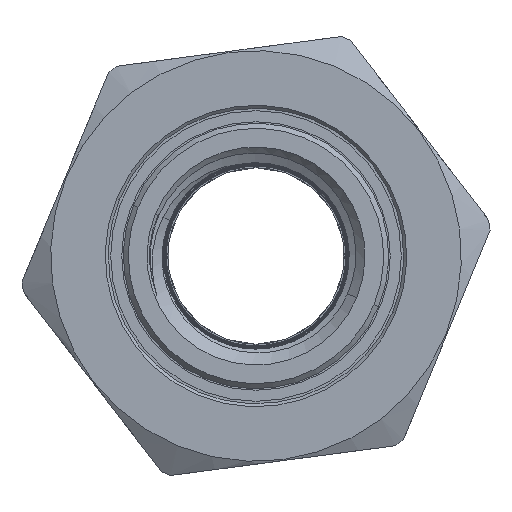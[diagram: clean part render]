
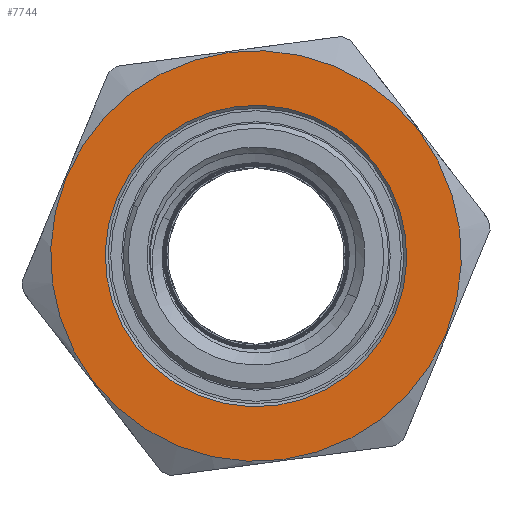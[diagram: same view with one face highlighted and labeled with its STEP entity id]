
A CAD part, left-side view. The second image highlights one B-rep face of the part: STEP entity #7744.
In plain terms, the highlighted planar face has unit normal (-1, 0, 0) as drawn and (1, 0, 0) by its records, which use the part's own axes.
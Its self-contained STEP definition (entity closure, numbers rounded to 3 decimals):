
#658 = ORIENTED_EDGE ( 'NONE', *, *, #764, .F. ) ;
#666 = ORIENTED_EDGE ( 'NONE', *, *, #9762, .F. ) ;
#669 = ORIENTED_EDGE ( 'NONE', *, *, #9780, .T. ) ;
#672 = EDGE_LOOP ( 'NONE', ( #669, #680 ) ) ;
#674 = EDGE_LOOP ( 'NONE', ( #666, #658 ) ) ;
#680 = ORIENTED_EDGE ( 'NONE', *, *, #790, .T. ) ;
#764 = EDGE_CURVE ( 'NONE', #5315, #5335, #7253, .T. ) ;
#790 = EDGE_CURVE ( 'NONE', #5356, #5347, #7243, .T. ) ;
#2399 = DIRECTION ( 'NONE',  ( 0., 0., 1. ) ) ;
#2420 = CARTESIAN_POINT ( 'NONE',  ( 11., 0., 0. ) ) ;
#2423 = DIRECTION ( 'NONE',  ( -1., 0., 0. ) ) ;
#2552 = DIRECTION ( 'NONE',  ( 0., 0., 1. ) ) ;
#2567 = CARTESIAN_POINT ( 'NONE',  ( 11., 0., 0. ) ) ;
#2582 = DIRECTION ( 'NONE',  ( -1., 0., 0. ) ) ;
#4733 = CARTESIAN_POINT ( 'NONE',  ( 11., 0., 0. ) ) ;
#4736 = DIRECTION ( 'NONE',  ( 0., 0., 1. ) ) ;
#4737 = DIRECTION ( 'NONE',  ( -1., 0., 0. ) ) ;
#5173 = DIRECTION ( 'NONE',  ( -1., 0., 0. ) ) ;
#5177 = DIRECTION ( 'NONE',  ( 0., 0., 1. ) ) ;
#5200 = CARTESIAN_POINT ( 'NONE',  ( 11., 0., 0. ) ) ;
#5315 = VERTEX_POINT ( 'NONE', #12500 ) ;
#5335 = VERTEX_POINT ( 'NONE', #12530 ) ;
#5347 = VERTEX_POINT ( 'NONE', #12529 ) ;
#5356 = VERTEX_POINT ( 'NONE', #12539 ) ;
#6013 = AXIS2_PLACEMENT_3D ( 'NONE', #4733, #4737, #4736 ) ;
#6017 = AXIS2_PLACEMENT_3D ( 'NONE', #5200, #5173, #5177 ) ;
#6146 = AXIS2_PLACEMENT_3D ( 'NONE', #9302, #9309, #9297 ) ;
#6199 = AXIS2_PLACEMENT_3D ( 'NONE', #2420, #2423, #2399 ) ;
#6228 = AXIS2_PLACEMENT_3D ( 'NONE', #2567, #2582, #2552 ) ;
#7243 = CIRCLE ( 'NONE', #6017, 15.05 ) ;
#7253 = CIRCLE ( 'NONE', #6013, 20.5 ) ;
#7744 = ADVANCED_FACE ( 'NONE', ( #13366, #13375 ), #9327, .F. ) ;
#9094 = CIRCLE ( 'NONE', #6228, 15.05 ) ;
#9297 = DIRECTION ( 'NONE',  ( 0., 0., 1. ) ) ;
#9302 = CARTESIAN_POINT ( 'NONE',  ( 11., 14.75, 0. ) ) ;
#9309 = DIRECTION ( 'NONE',  ( -1., 0., 0. ) ) ;
#9327 = PLANE ( 'NONE',  #6146 ) ;
#9762 = EDGE_CURVE ( 'NONE', #5335, #5315, #13441, .T. ) ;
#9780 = EDGE_CURVE ( 'NONE', #5347, #5356, #9094, .T. ) ;
#12500 = CARTESIAN_POINT ( 'NONE',  ( 11., 0., -20.5 ) ) ;
#12529 = CARTESIAN_POINT ( 'NONE',  ( 11., 0., -15.05 ) ) ;
#12530 = CARTESIAN_POINT ( 'NONE',  ( 11., 0., 20.5 ) ) ;
#12539 = CARTESIAN_POINT ( 'NONE',  ( 11., 0., 15.05 ) ) ;
#13366 = FACE_BOUND ( 'NONE', #672, .T. ) ;
#13375 = FACE_OUTER_BOUND ( 'NONE', #674, .T. ) ;
#13441 = CIRCLE ( 'NONE', #6199, 20.5 ) ;
